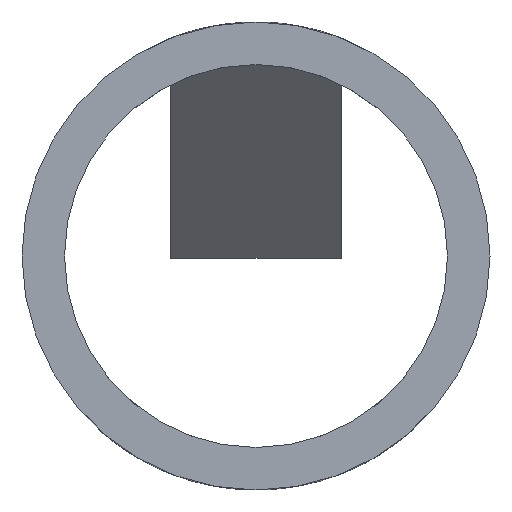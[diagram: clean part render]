
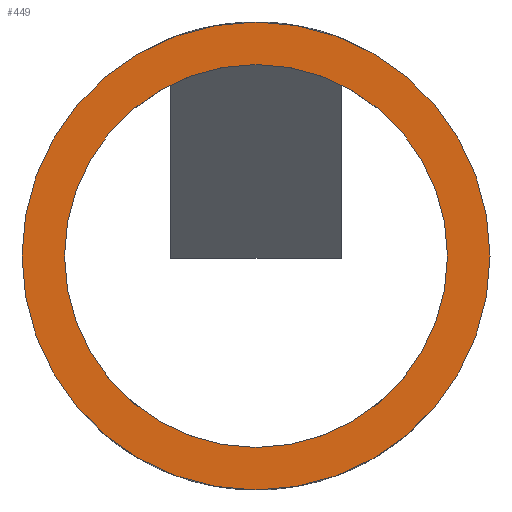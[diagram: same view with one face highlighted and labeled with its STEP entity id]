
A CAD part, front view. The second image highlights one B-rep face of the part: STEP entity #449.
In plain terms, the highlighted planar face has unit normal (0, -1, 0).
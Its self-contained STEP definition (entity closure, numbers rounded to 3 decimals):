
#31 = CIRCLE ( 'NONE', #205, 4.5 ) ;
#53 = CIRCLE ( 'NONE', #169, 4.5 ) ;
#94 = EDGE_LOOP ( 'NONE', ( #815, #816 ) ) ;
#102 = EDGE_LOOP ( 'NONE', ( #817, #818 ) ) ;
#150 = EDGE_CURVE ( 'NONE', #509, #519, #53, .T. ) ;
#168 = EDGE_CURVE ( 'NONE', #527, #660, #226, .T. ) ;
#169 = AXIS2_PLACEMENT_3D ( 'NONE', #629, #624, #623 ) ;
#190 = AXIS2_PLACEMENT_3D ( 'NONE', #740, #738, #737 ) ;
#201 = AXIS2_PLACEMENT_3D ( 'NONE', #641, #296, #289 ) ;
#204 = AXIS2_PLACEMENT_3D ( 'NONE', #372, #340, #339 ) ;
#205 = AXIS2_PLACEMENT_3D ( 'NONE', #295, #294, #293 ) ;
#210 = EDGE_CURVE ( 'NONE', #660, #527, #786, .T. ) ;
#213 = EDGE_CURVE ( 'NONE', #519, #509, #31, .T. ) ;
#226 = CIRCLE ( 'NONE', #201, 5.5 ) ;
#289 = DIRECTION ( 'NONE',  ( -1., 0., 0. ) ) ;
#293 = DIRECTION ( 'NONE',  ( -1., 0., 0. ) ) ;
#294 = DIRECTION ( 'NONE',  ( 0., -1., 0. ) ) ;
#295 = CARTESIAN_POINT ( 'NONE',  ( 0., 0., 0. ) ) ;
#296 = DIRECTION ( 'NONE',  ( 0., -1., 0. ) ) ;
#339 = DIRECTION ( 'NONE',  ( -1., 0., 0. ) ) ;
#340 = DIRECTION ( 'NONE',  ( 0., -1., 0. ) ) ;
#372 = CARTESIAN_POINT ( 'NONE',  ( 0., 0., 0. ) ) ;
#449 = ADVANCED_FACE ( 'NONE', ( #468, #465 ), #739, .T. ) ;
#465 = FACE_BOUND ( 'NONE', #102, .T. ) ;
#468 = FACE_OUTER_BOUND ( 'NONE', #94, .T. ) ;
#509 = VERTEX_POINT ( 'NONE', #682 ) ;
#519 = VERTEX_POINT ( 'NONE', #679 ) ;
#527 = VERTEX_POINT ( 'NONE', #676 ) ;
#623 = DIRECTION ( 'NONE',  ( -1., 0., 0. ) ) ;
#624 = DIRECTION ( 'NONE',  ( 0., -1., 0. ) ) ;
#629 = CARTESIAN_POINT ( 'NONE',  ( 0., 0., 0. ) ) ;
#641 = CARTESIAN_POINT ( 'NONE',  ( 0., 0., 0. ) ) ;
#660 = VERTEX_POINT ( 'NONE', #782 ) ;
#676 = CARTESIAN_POINT ( 'NONE',  ( -5.5, 0., 0. ) ) ;
#679 = CARTESIAN_POINT ( 'NONE',  ( -4.5, 0., 0. ) ) ;
#682 = CARTESIAN_POINT ( 'NONE',  ( 4.5, 0., 0. ) ) ;
#737 = DIRECTION ( 'NONE',  ( -1., 0., 0. ) ) ;
#738 = DIRECTION ( 'NONE',  ( 0., -1., 0. ) ) ;
#739 = PLANE ( 'NONE',  #190 ) ;
#740 = CARTESIAN_POINT ( 'NONE',  ( 0., 0., 0. ) ) ;
#782 = CARTESIAN_POINT ( 'NONE',  ( 5.5, 0., 0. ) ) ;
#786 = CIRCLE ( 'NONE', #204, 5.5 ) ;
#815 = ORIENTED_EDGE ( 'NONE', *, *, #210, .T. ) ;
#816 = ORIENTED_EDGE ( 'NONE', *, *, #168, .T. ) ;
#817 = ORIENTED_EDGE ( 'NONE', *, *, #150, .F. ) ;
#818 = ORIENTED_EDGE ( 'NONE', *, *, #213, .F. ) ;
